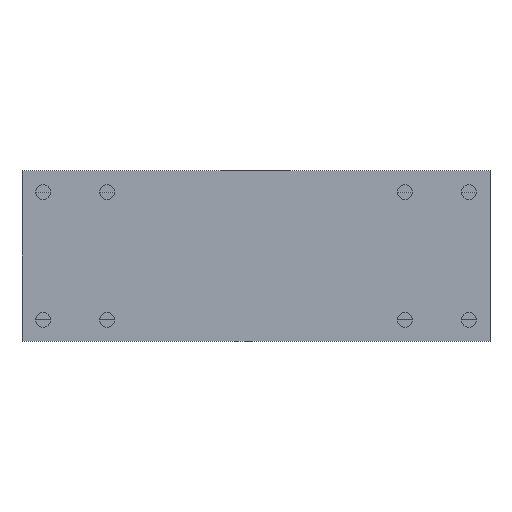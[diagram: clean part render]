
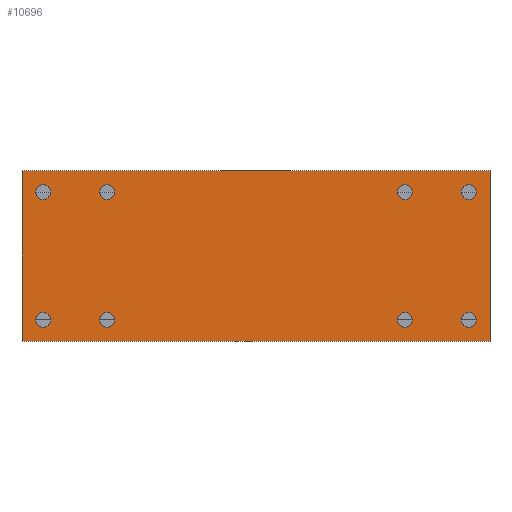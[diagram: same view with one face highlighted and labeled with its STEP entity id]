
A CAD part, front view. The second image highlights one B-rep face of the part: STEP entity #10696.
In plain terms, the highlighted planar face has unit normal (0, -1, 0).
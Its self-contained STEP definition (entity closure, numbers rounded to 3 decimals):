
#378=CIRCLE('',#11336,1.75);
#379=CIRCLE('',#11337,1.75);
#380=CIRCLE('',#11338,1.75);
#381=CIRCLE('',#11339,1.75);
#382=CIRCLE('',#11340,1.75);
#383=CIRCLE('',#11341,1.75);
#384=CIRCLE('',#11342,1.75);
#385=CIRCLE('',#11343,1.75);
#1126=ORIENTED_EDGE('',*,*,#4367,.F.);
#1127=ORIENTED_EDGE('',*,*,#4368,.F.);
#1128=ORIENTED_EDGE('',*,*,#4369,.F.);
#1129=ORIENTED_EDGE('',*,*,#4370,.F.);
#1130=ORIENTED_EDGE('',*,*,#4371,.T.);
#1131=ORIENTED_EDGE('',*,*,#4372,.F.);
#1132=ORIENTED_EDGE('',*,*,#4373,.F.);
#1133=ORIENTED_EDGE('',*,*,#4374,.F.);
#1134=ORIENTED_EDGE('',*,*,#4318,.T.);
#1135=ORIENTED_EDGE('',*,*,#4375,.F.);
#1136=ORIENTED_EDGE('',*,*,#4376,.F.);
#1137=ORIENTED_EDGE('',*,*,#4365,.T.);
#4318=EDGE_CURVE('',#5945,#5944,#7052,.T.);
#4365=EDGE_CURVE('',#5982,#5945,#7095,.T.);
#4367=EDGE_CURVE('',#5983,#5983,#378,.T.);
#4368=EDGE_CURVE('',#5984,#5984,#379,.T.);
#4369=EDGE_CURVE('',#5985,#5985,#380,.T.);
#4370=EDGE_CURVE('',#5986,#5986,#381,.T.);
#4371=EDGE_CURVE('',#5987,#5987,#382,.T.);
#4372=EDGE_CURVE('',#5988,#5988,#383,.T.);
#4373=EDGE_CURVE('',#5989,#5989,#384,.T.);
#4374=EDGE_CURVE('',#5990,#5990,#385,.T.);
#4375=EDGE_CURVE('',#5991,#5944,#7097,.T.);
#4376=EDGE_CURVE('',#5982,#5991,#7098,.T.);
#5944=VERTEX_POINT('',#16170);
#5945=VERTEX_POINT('',#16172);
#5982=VERTEX_POINT('',#16263);
#5983=VERTEX_POINT('',#16267);
#5984=VERTEX_POINT('',#16269);
#5985=VERTEX_POINT('',#16271);
#5986=VERTEX_POINT('',#16273);
#5987=VERTEX_POINT('',#16275);
#5988=VERTEX_POINT('',#16277);
#5989=VERTEX_POINT('',#16279);
#5990=VERTEX_POINT('',#16281);
#5991=VERTEX_POINT('',#16283);
#7052=LINE('',#16171,#8014);
#7095=LINE('',#16262,#8057);
#7097=LINE('',#16282,#8059);
#7098=LINE('',#16284,#8060);
#8014=VECTOR('',#12633,1000.);
#8057=VECTOR('',#12698,1000.);
#8059=VECTOR('',#12718,1000.);
#8060=VECTOR('',#12719,1000.);
#8963=EDGE_LOOP('',(#1126));
#8964=EDGE_LOOP('',(#1127));
#8965=EDGE_LOOP('',(#1128));
#8966=EDGE_LOOP('',(#1129));
#8967=EDGE_LOOP('',(#1130));
#8968=EDGE_LOOP('',(#1131));
#8969=EDGE_LOOP('',(#1132));
#8970=EDGE_LOOP('',(#1133));
#8971=EDGE_LOOP('',(#1134,#1135,#1136,#1137));
#9699=FACE_BOUND('',#8963,.T.);
#9700=FACE_BOUND('',#8964,.T.);
#9701=FACE_BOUND('',#8965,.T.);
#9702=FACE_BOUND('',#8966,.T.);
#9703=FACE_BOUND('',#8967,.T.);
#9704=FACE_BOUND('',#8968,.T.);
#9705=FACE_BOUND('',#8969,.T.);
#9706=FACE_BOUND('',#8970,.T.);
#9707=FACE_BOUND('',#8971,.T.);
#10431=PLANE('',#11335);
#10696=ADVANCED_FACE('',(#9699,#9700,#9701,#9702,#9703,#9704,#9705,#9706,
#9707),#10431,.F.);
#11335=AXIS2_PLACEMENT_3D('',#16265,#12700,#12701);
#11336=AXIS2_PLACEMENT_3D('',#16266,#12702,#12703);
#11337=AXIS2_PLACEMENT_3D('',#16268,#12704,#12705);
#11338=AXIS2_PLACEMENT_3D('',#16270,#12706,#12707);
#11339=AXIS2_PLACEMENT_3D('',#16272,#12708,#12709);
#11340=AXIS2_PLACEMENT_3D('',#16274,#12710,#12711);
#11341=AXIS2_PLACEMENT_3D('',#16276,#12712,#12713);
#11342=AXIS2_PLACEMENT_3D('',#16278,#12714,#12715);
#11343=AXIS2_PLACEMENT_3D('',#16280,#12716,#12717);
#12633=DIRECTION('',(0.,0.,-1.));
#12698=DIRECTION('',(-1.,0.,0.));
#12700=DIRECTION('',(0.,1.,0.));
#12701=DIRECTION('',(0.,0.,1.));
#12702=DIRECTION('',(0.,-1.,0.));
#12703=DIRECTION('',(0.,0.,-1.));
#12704=DIRECTION('',(0.,-1.,0.));
#12705=DIRECTION('',(0.,0.,-1.));
#12706=DIRECTION('',(0.,-1.,0.));
#12707=DIRECTION('',(0.,0.,-1.));
#12708=DIRECTION('',(0.,-1.,0.));
#12709=DIRECTION('',(0.,0.,-1.));
#12710=DIRECTION('',(0.,1.,0.));
#12711=DIRECTION('',(0.,0.,1.));
#12712=DIRECTION('',(0.,-1.,0.));
#12713=DIRECTION('',(0.,0.,-1.));
#12714=DIRECTION('',(0.,-1.,0.));
#12715=DIRECTION('',(0.,0.,-1.));
#12716=DIRECTION('',(0.,-1.,0.));
#12717=DIRECTION('',(0.,0.,-1.));
#12718=DIRECTION('',(-1.,0.,0.));
#12719=DIRECTION('',(0.,0.,-1.));
#16170=CARTESIAN_POINT('',(0.,0.,-20.));
#16171=CARTESIAN_POINT('',(0.,0.,20.));
#16172=CARTESIAN_POINT('',(0.,0.,20.));
#16262=CARTESIAN_POINT('',(110.,0.,20.));
#16263=CARTESIAN_POINT('',(110.,0.,20.));
#16265=CARTESIAN_POINT('',(110.,0.,20.));
#16266=CARTESIAN_POINT('',(90.,0.,15.));
#16267=CARTESIAN_POINT('',(90.,0.,13.25));
#16268=CARTESIAN_POINT('',(90.,0.,-15.));
#16269=CARTESIAN_POINT('',(90.,0.,-16.75));
#16270=CARTESIAN_POINT('',(20.,0.,15.));
#16271=CARTESIAN_POINT('',(20.,0.,13.25));
#16272=CARTESIAN_POINT('',(20.,0.,-15.));
#16273=CARTESIAN_POINT('',(20.,0.,-16.75));
#16274=CARTESIAN_POINT('',(105.,0.,15.));
#16275=CARTESIAN_POINT('',(105.,0.,16.75));
#16276=CARTESIAN_POINT('',(105.,0.,-15.));
#16277=CARTESIAN_POINT('',(105.,0.,-16.75));
#16278=CARTESIAN_POINT('',(5.,0.,-15.));
#16279=CARTESIAN_POINT('',(5.,0.,-16.75));
#16280=CARTESIAN_POINT('',(5.,0.,15.));
#16281=CARTESIAN_POINT('',(5.,0.,13.25));
#16282=CARTESIAN_POINT('',(110.,0.,-20.));
#16283=CARTESIAN_POINT('',(110.,0.,-20.));
#16284=CARTESIAN_POINT('',(110.,0.,20.));
